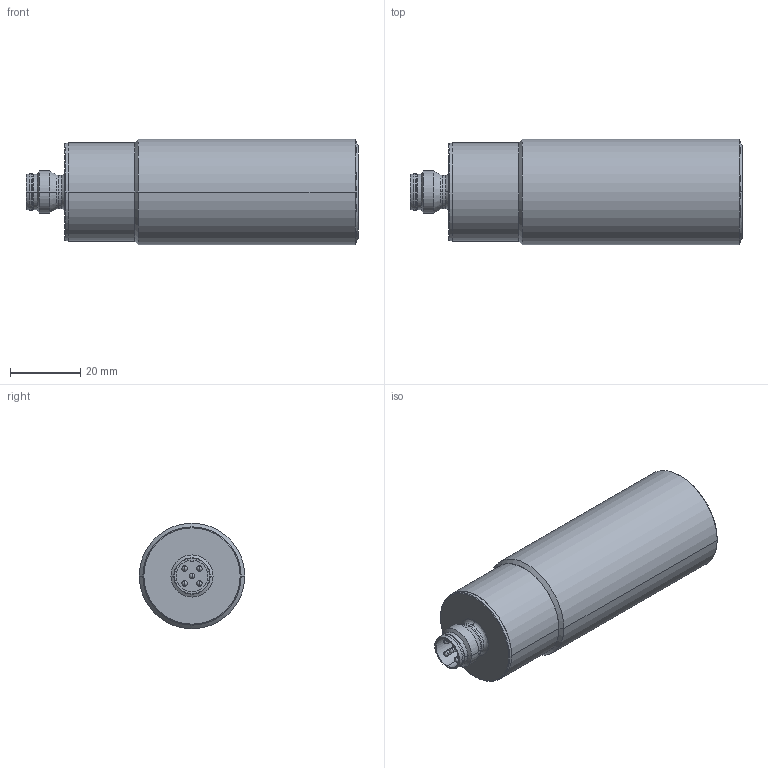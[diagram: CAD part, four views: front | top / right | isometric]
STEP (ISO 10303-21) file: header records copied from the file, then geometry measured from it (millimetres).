
FILE_DESCRIPTION((''),'2;1');
FILE_NAME('C:\Dokumente und Einstellungen\Kramp\Eigene Dateien\Microsonic Nacharb 1\STP\mic-130_XX_M.stp','2005-08-09T11:30:52',('Kramp'),(''),'Autodesk Inventor 7','Autodesk Inventor 7','');
FILE_SCHEMA(('AUTOMOTIVE_DESIGN { 1 0 10303 214 1 1 1 1 }'));
Length unit declared in the file: millimetre
Products named in the file (1): mic-130_XX_M
Bounding box: 94.5 x 30 x 30 mm (x, y, z)
Volume: 57549.2 mm3; surface area: 9828.5 mm2
Topology: 1 solids, 1 shells, 74 faces, 176 edges, 96 vertices
Faces by surface type: cylinder 31, cone 14, sphere 10, plane 8, bspline 7, torus 4
Entity records: 2226 total; most frequent: CARTESIAN_POINT 540, DIRECTION 401, ORIENTED_EDGE 312, AXIS2_PLACEMENT_3D 177, EDGE_CURVE 156, CIRCLE 109, VERTEX_POINT 96, EDGE_LOOP 86
